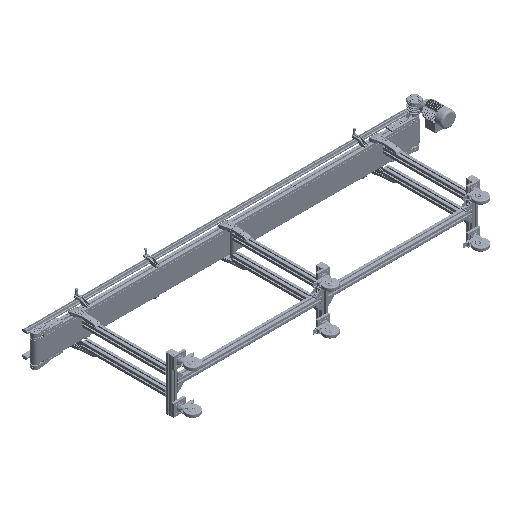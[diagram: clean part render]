
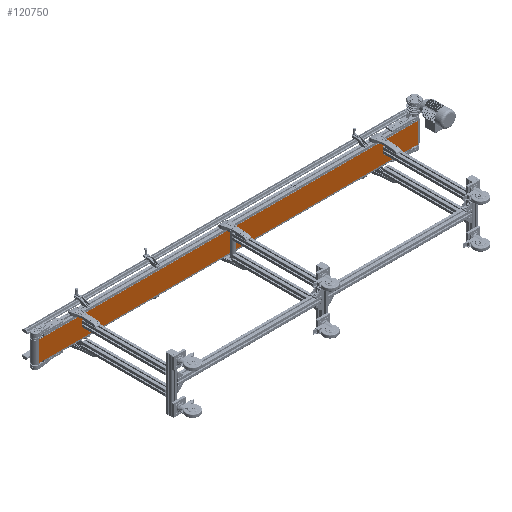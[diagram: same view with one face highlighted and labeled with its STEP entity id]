
A CAD part, isometric view. The second image highlights one B-rep face of the part: STEP entity #120750.
In plain terms, the highlighted planar face has unit normal (0, -1, 0).
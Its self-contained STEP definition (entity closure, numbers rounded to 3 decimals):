
#568 = DIRECTION ( 'NONE',  ( 0., 0., -1. ) ) ;
#909 = EDGE_CURVE ( 'NONE', #251216, #259704, #39102, .T. ) ;
#12853 = ORIENTED_EDGE ( 'NONE', *, *, #909, .F. ) ;
#25835 = FACE_OUTER_BOUND ( 'NONE', #159060, .T. ) ;
#31608 = DIRECTION ( 'NONE',  ( 1., 0., 0. ) ) ;
#39102 = LINE ( 'NONE', #81627, #231659 ) ;
#49380 = EDGE_CURVE ( 'NONE', #152177, #259704, #197739, .T. ) ;
#58254 = EDGE_CURVE ( 'NONE', #89139, #251216, #211088, .T. ) ;
#59278 = DIRECTION ( 'NONE',  ( 0., 1., 0. ) ) ;
#69473 = EDGE_CURVE ( 'NONE', #89139, #152177, #187569, .T. ) ;
#81627 = CARTESIAN_POINT ( 'NONE',  ( 1400., -27., 75. ) ) ;
#83676 = CARTESIAN_POINT ( 'NONE',  ( -1400., -27., -75. ) ) ;
#89139 = VERTEX_POINT ( 'NONE', #214053 ) ;
#90312 = VECTOR ( 'NONE', #31608, 1000. ) ;
#101105 = DIRECTION ( 'NONE',  ( 0., 0., -1. ) ) ;
#105381 = DIRECTION ( 'NONE',  ( 1., 0., 0. ) ) ;
#109535 = DIRECTION ( 'NONE',  ( 0., 0., 1. ) ) ;
#120750 = ADVANCED_FACE ( 'NONE', ( #25835 ), #169969, .F. ) ;
#123703 = CARTESIAN_POINT ( 'NONE',  ( -1400., -27., 75. ) ) ;
#127297 = CARTESIAN_POINT ( 'NONE',  ( -1400., -27., 75. ) ) ;
#147878 = ORIENTED_EDGE ( 'NONE', *, *, #58254, .F. ) ;
#152177 = VERTEX_POINT ( 'NONE', #83676 ) ;
#159060 = EDGE_LOOP ( 'NONE', ( #238796, #12853, #147878, #182726 ) ) ;
#169932 = CARTESIAN_POINT ( 'NONE',  ( 1400., -27., -75. ) ) ;
#169969 = PLANE ( 'NONE',  #241913 ) ;
#181161 = VECTOR ( 'NONE', #101105, 1000. ) ;
#182726 = ORIENTED_EDGE ( 'NONE', *, *, #69473, .T. ) ;
#187569 = LINE ( 'NONE', #271278, #181161 ) ;
#197739 = LINE ( 'NONE', #260873, #90312 ) ;
#198862 = CARTESIAN_POINT ( 'NONE',  ( 1400., -27., 75. ) ) ;
#211088 = LINE ( 'NONE', #127297, #254872 ) ;
#214053 = CARTESIAN_POINT ( 'NONE',  ( -1400., -27., 75. ) ) ;
#231659 = VECTOR ( 'NONE', #568, 1000. ) ;
#238796 = ORIENTED_EDGE ( 'NONE', *, *, #49380, .T. ) ;
#241913 = AXIS2_PLACEMENT_3D ( 'NONE', #123703, #59278, #109535 ) ;
#251216 = VERTEX_POINT ( 'NONE', #198862 ) ;
#254872 = VECTOR ( 'NONE', #105381, 1000. ) ;
#259704 = VERTEX_POINT ( 'NONE', #169932 ) ;
#260873 = CARTESIAN_POINT ( 'NONE',  ( -1400., -27., -75. ) ) ;
#271278 = CARTESIAN_POINT ( 'NONE',  ( -1400., -27., 75. ) ) ;
